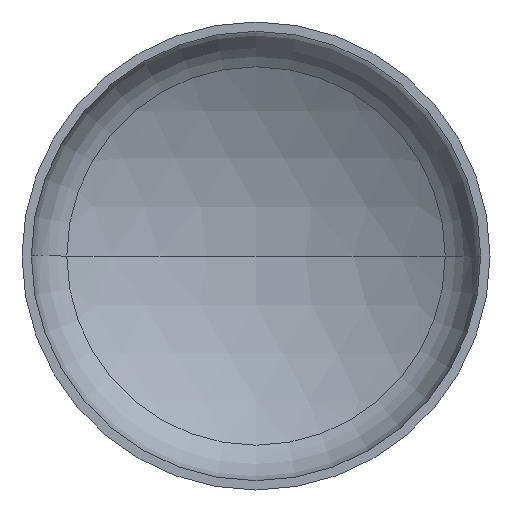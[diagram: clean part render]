
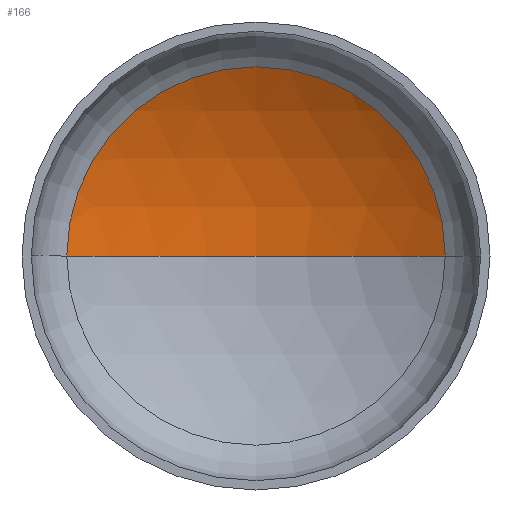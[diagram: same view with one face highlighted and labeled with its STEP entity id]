
A CAD part, front view. The second image highlights one B-rep face of the part: STEP entity #166.
In plain terms, the highlighted spherical face has radius 1280 mm.
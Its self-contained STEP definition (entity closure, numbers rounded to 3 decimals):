
#6 = AXIS2_PLACEMENT_3D ( 'NONE', #139, #310, #162 ) ;
#14 = AXIS2_PLACEMENT_3D ( 'NONE', #129, #150, #151 ) ;
#67 = AXIS2_PLACEMENT_3D ( 'NONE', #279, #305, #355 ) ;
#80 = VERTEX_POINT ( 'NONE', #362 ) ;
#90 = VERTEX_POINT ( 'NONE', #292 ) ;
#93 = ORIENTED_EDGE ( 'NONE', *, *, #390, .T. ) ;
#94 = ORIENTED_EDGE ( 'NONE', *, *, #367, .F. ) ;
#110 = ORIENTED_EDGE ( 'NONE', *, *, #389, .T. ) ;
#128 = EDGE_LOOP ( 'NONE', ( #94, #110, #93 ) ) ;
#129 = CARTESIAN_POINT ( 'NONE',  ( 0., -793.138, 0. ) ) ;
#131 = CIRCLE ( 'NONE', #263, 646.802 ) ;
#132 = DIRECTION ( 'NONE',  ( 0., -1., 0. ) ) ;
#137 = DIRECTION ( 'NONE',  ( 1., 0., 0. ) ) ;
#138 = VERTEX_POINT ( 'NONE', #297 ) ;
#139 = CARTESIAN_POINT ( 'NONE',  ( 0., -793.138, 0. ) ) ;
#149 = CIRCLE ( 'NONE', #14, 1280. ) ;
#150 = DIRECTION ( 'NONE',  ( 0., 0., 1. ) ) ;
#151 = DIRECTION ( 'NONE',  ( 1., 0., 0. ) ) ;
#162 = DIRECTION ( 'NONE',  ( -1., 0., 0. ) ) ;
#166 = ADVANCED_FACE ( 'NONE', ( #309 ), #244, .F. ) ;
#244 = SPHERICAL_SURFACE ( 'NONE', #67, 1280. ) ;
#263 = AXIS2_PLACEMENT_3D ( 'NONE', #283, #132, #137 ) ;
#279 = CARTESIAN_POINT ( 'NONE',  ( 0., -793.138, 0. ) ) ;
#283 = CARTESIAN_POINT ( 'NONE',  ( 0., 311.419, 0. ) ) ;
#292 = CARTESIAN_POINT ( 'NONE',  ( -646.802, 311.419, 0. ) ) ;
#297 = CARTESIAN_POINT ( 'NONE',  ( 646.802, 311.419, 0. ) ) ;
#305 = DIRECTION ( 'NONE',  ( 0., 0., -1. ) ) ;
#309 = FACE_OUTER_BOUND ( 'NONE', #128, .T. ) ;
#310 = DIRECTION ( 'NONE',  ( 0., 0., -1. ) ) ;
#355 = DIRECTION ( 'NONE',  ( -1., 0., 0. ) ) ;
#362 = CARTESIAN_POINT ( 'NONE',  ( 0., 486.862, 0. ) ) ;
#367 = EDGE_CURVE ( 'NONE', #80, #90, #149, .T. ) ;
#382 = CIRCLE ( 'NONE', #6, 1280. ) ;
#389 = EDGE_CURVE ( 'NONE', #80, #138, #382, .T. ) ;
#390 = EDGE_CURVE ( 'NONE', #138, #90, #131, .T. ) ;
